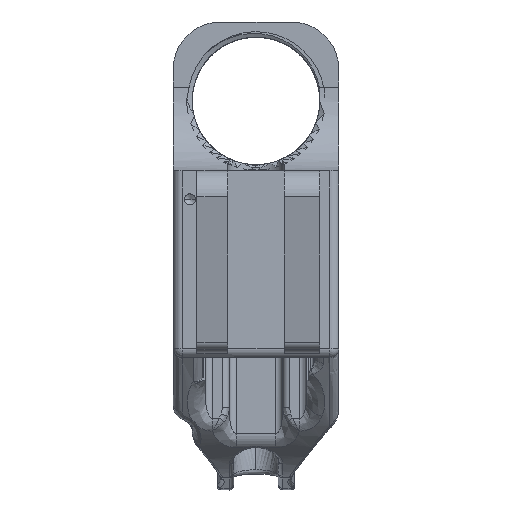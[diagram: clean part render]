
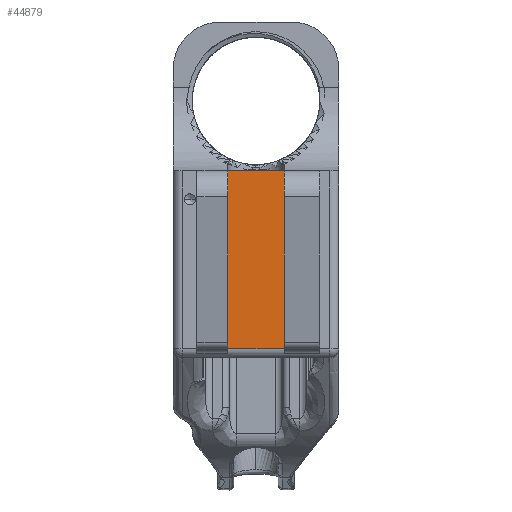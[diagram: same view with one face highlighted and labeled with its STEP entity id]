
A CAD part, top view. The second image highlights one B-rep face of the part: STEP entity #44879.
In plain terms, the highlighted planar face has unit normal (0, 0, 1).
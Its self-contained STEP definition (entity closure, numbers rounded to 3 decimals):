
#1360 = CARTESIAN_POINT ( 'NONE',  ( 6.365, 47.507, 301.79 ) ) ;
#1409 = LINE ( 'NONE', #4632, #10304 ) ;
#4632 = CARTESIAN_POINT ( 'NONE',  ( 19.065, 13.471, 301.79 ) ) ;
#5560 = DIRECTION ( 'NONE',  ( 0., 0., -1. ) ) ;
#8846 = VERTEX_POINT ( 'NONE', #27425 ) ;
#9202 = CARTESIAN_POINT ( 'NONE',  ( -0.543, 45.92, 301.79 ) ) ;
#10304 = VECTOR ( 'NONE', #12252, 1000. ) ;
#10699 = EDGE_CURVE ( 'NONE', #32216, #16366, #1409, .T. ) ;
#11364 = VERTEX_POINT ( 'NONE', #26501 ) ;
#12252 = DIRECTION ( 'NONE',  ( 0., -1., 0. ) ) ;
#15098 = EDGE_CURVE ( 'NONE', #8846, #11364, #20750, .T. ) ;
#16366 = VERTEX_POINT ( 'NONE', #31757 ) ;
#16746 = ORIENTED_EDGE ( 'NONE', *, *, #15098, .F. ) ;
#17933 = EDGE_LOOP ( 'NONE', ( #16746, #29879, #19357, #44619 ) ) ;
#18969 = LINE ( 'NONE', #47519, #36741 ) ;
#19357 = ORIENTED_EDGE ( 'NONE', *, *, #10699, .F. ) ;
#19751 = AXIS2_PLACEMENT_3D ( 'NONE', #9202, #5560, #32085 ) ;
#20750 = LINE ( 'NONE', #1360, #39742 ) ;
#21003 = DIRECTION ( 'NONE',  ( 1., 0., 0. ) ) ;
#24422 = DIRECTION ( 'NONE',  ( 0., 1., 0. ) ) ;
#26501 = CARTESIAN_POINT ( 'NONE',  ( 6.365, 47.507, 301.79 ) ) ;
#27425 = CARTESIAN_POINT ( 'NONE',  ( 6.365, 7.656, 301.79 ) ) ;
#29879 = ORIENTED_EDGE ( 'NONE', *, *, #41973, .F. ) ;
#31757 = CARTESIAN_POINT ( 'NONE',  ( 19.065, 7.656, 301.79 ) ) ;
#31987 = FACE_OUTER_BOUND ( 'NONE', #17933, .T. ) ;
#32085 = DIRECTION ( 'NONE',  ( 0., -1., 0. ) ) ;
#32216 = VERTEX_POINT ( 'NONE', #43479 ) ;
#35029 = VECTOR ( 'NONE', #48967, 1000. ) ;
#36741 = VECTOR ( 'NONE', #21003, 1000. ) ;
#39742 = VECTOR ( 'NONE', #24422, 1000. ) ;
#41973 = EDGE_CURVE ( 'NONE', #16366, #8846, #47514, .T. ) ;
#43479 = CARTESIAN_POINT ( 'NONE',  ( 19.065, 47.507, 301.79 ) ) ;
#44432 = EDGE_CURVE ( 'NONE', #11364, #32216, #18969, .T. ) ;
#44619 = ORIENTED_EDGE ( 'NONE', *, *, #44432, .F. ) ;
#44879 = ADVANCED_FACE ( 'NONE', ( #31987 ), #47183, .F. ) ;
#45173 = CARTESIAN_POINT ( 'NONE',  ( 49.457, 7.656, 301.79 ) ) ;
#47183 = PLANE ( 'NONE',  #19751 ) ;
#47514 = LINE ( 'NONE', #45173, #35029 ) ;
#47519 = CARTESIAN_POINT ( 'NONE',  ( 19.065, 47.507, 301.79 ) ) ;
#48967 = DIRECTION ( 'NONE',  ( -1., 0., 0. ) ) ;
